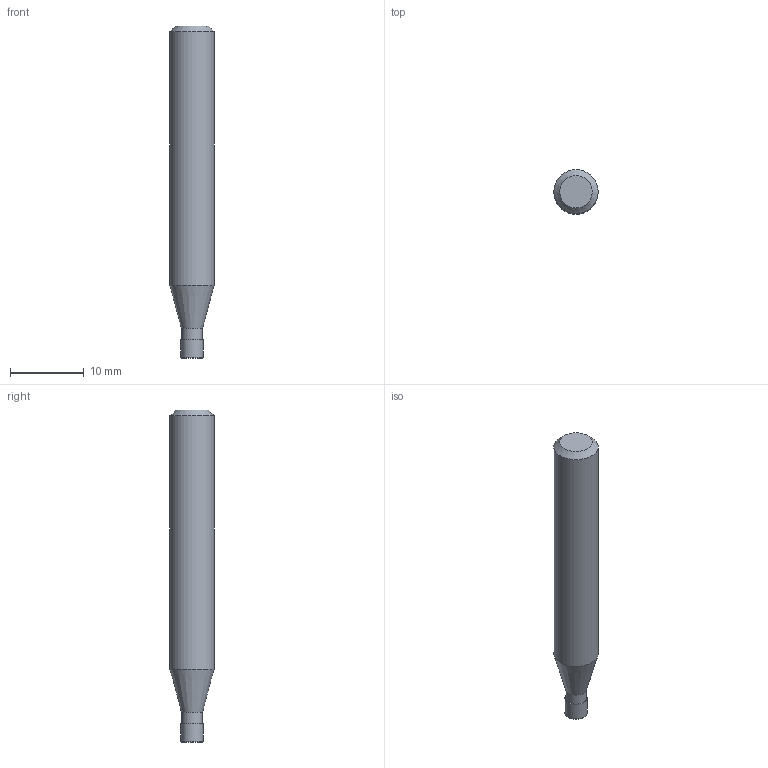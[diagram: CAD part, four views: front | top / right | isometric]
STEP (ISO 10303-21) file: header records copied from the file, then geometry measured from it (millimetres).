
FILE_DESCRIPTION((''),'2;1');
FILE_NAME('C:\Users\nsx150\AppData\Local\Temp\Mastercam 2021\8MCJJJGUOI\TEMP.step','2022-10-12T10:45:21',(''),(''),'STEP Write','Mastercam 2021 ... CNC Software, Inc.','');
FILE_SCHEMA(('AUTOMOTIVE_DESIGN'));
Length unit declared in the file: millimetre
Products named in the file (1): None
Bounding box: 6 x 6 x 45 mm (x, y, z)
Volume: 1109 mm3; surface area: 822.3 mm2
Topology: 2 solids, 2 shells, 10 faces, 14 edges, 8 vertices
Faces by surface type: plane 4, cylinder 3, cone 2, torus 1
Full cylindrical faces by diameter (mm): 2.85 x1, 3 x1, 6 x1
Entity records: 232 total; most frequent: DIRECTION 40, CARTESIAN_POINT 28, AXIS2_PLACEMENT_3D 20, ORIENTED_EDGE 16, EDGE_LOOP 16, STYLED_ITEM 13, ADVANCED_FACE 10, FACE_BOUND 10
